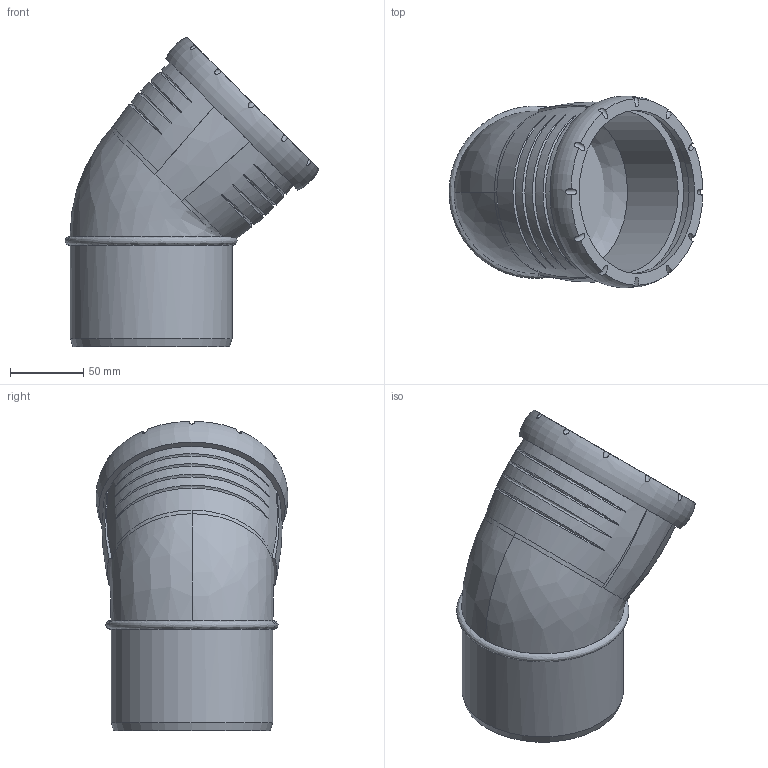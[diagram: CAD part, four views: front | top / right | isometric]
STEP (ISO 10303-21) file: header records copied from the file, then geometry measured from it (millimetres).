
FILE_DESCRIPTION(/* description */ (''),/* implementation_level */ '2;1');
FILE_NAME(/* name */ 'H:\Geberit-Teile\Export\Bogen_TEST\stp\393522.stp',/* time_stamp */ '2017-02-14T10:12:38+01:00',/* author */ ('seihe2'),/* organization */ (''),/* preprocessor_version */ 'ST-DEVELOPER v15.2',/* originating_system */ 'Autodesk Inventor 2014',/* authorisation */ '');
FILE_SCHEMA (('AUTOMOTIVE_DESIGN { 1 0 10303 214 3 1 1 }'));
Length unit declared in the file: millimetre
Products named in the file (1): 393522
Bounding box: 172.95 x 130.87 x 210.98 mm (x, y, z)
Volume: 708237.4 mm3; surface area: 157294.2 mm2
Topology: 2 solids, 2 shells, 55 faces, 136 edges, 96 vertices
Faces by surface type: bspline 26, cylinder 18, plane 8, cone 2, torus 1
Full cylindrical faces by diameter (mm): 101.2 x1, 110.2 x1, 111 x1, 111.3 x1, 121.5 x1
Entity records: 4236 total; most frequent: CARTESIAN_POINT 3037, ORIENTED_EDGE 252, DIRECTION 176, EDGE_CURVE 125, VERTEX_POINT 93, AXIS2_PLACEMENT_3D 88, EDGE_LOOP 77, B_SPLINE_CURVE_WITH_KNOTS 67
